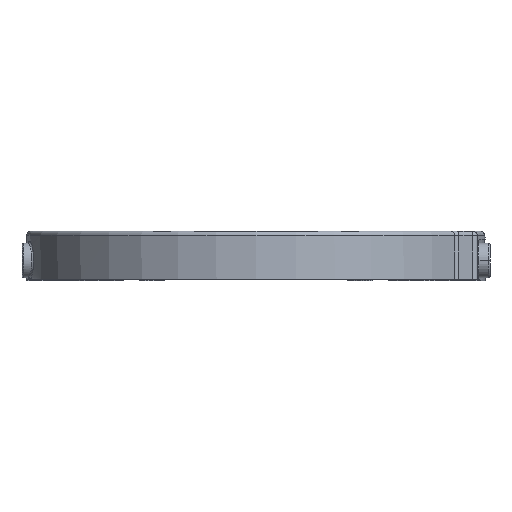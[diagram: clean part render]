
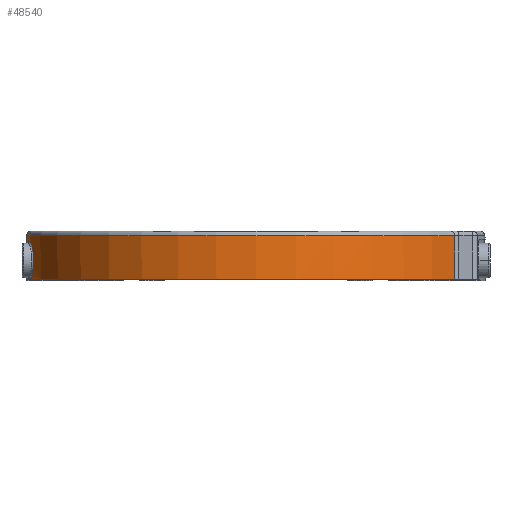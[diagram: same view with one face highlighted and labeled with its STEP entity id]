
A CAD part, front view. The second image highlights one B-rep face of the part: STEP entity #48540.
In plain terms, the highlighted cylindrical face has radius 25 mm (diameter 50 mm), a partial arc.
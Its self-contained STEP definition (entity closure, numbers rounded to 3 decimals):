
#132 = CARTESIAN_POINT ( 'NONE',  ( 24.761, 3.451, 4.08 ) ) ;
#903 = CARTESIAN_POINT ( 'NONE',  ( 24.62, 4.343, 4.156 ) ) ;
#3294 = DIRECTION ( 'NONE',  ( 1., 0., 0. ) ) ;
#3486 = DIRECTION ( 'NONE',  ( 0., 0., 1. ) ) ;
#5226 = CYLINDRICAL_SURFACE ( 'NONE', #35086, 25. ) ;
#5487 = CARTESIAN_POINT ( 'NONE',  ( 24.412, 5.39, 3.698 ) ) ;
#5868 = CARTESIAN_POINT ( 'NONE',  ( 24.911, 2.103, 1.358 ) ) ;
#5896 = EDGE_CURVE ( 'NONE', #22695, #59131, #70482, .T. ) ;
#6257 = CARTESIAN_POINT ( 'NONE',  ( 24.917, 2.031, 1.608 ) ) ;
#6662 = CARTESIAN_POINT ( 'NONE',  ( 24.444, 5.246, 0.334 ) ) ;
#6925 = VERTEX_POINT ( 'NONE', #14994 ) ;
#7051 = CARTESIAN_POINT ( 'NONE',  ( 24.606, 4.418, 0. ) ) ;
#8643 = CARTESIAN_POINT ( 'NONE',  ( 24.606, 4.418, 0. ) ) ;
#11979 = CARTESIAN_POINT ( 'NONE',  ( 24.919, 2.015, 2.515 ) ) ;
#12760 = CARTESIAN_POINT ( 'NONE',  ( 24.239, 6.123, 2.501 ) ) ;
#13174 = CARTESIAN_POINT ( 'NONE',  ( 24.561, 4.674, 0.044 ) ) ;
#14022 = EDGE_CURVE ( 'NONE', #67488, #6925, #67563, .T. ) ;
#14994 = CARTESIAN_POINT ( 'NONE',  ( 24.722, 3.717, 0. ) ) ;
#17024 = EDGE_CURVE ( 'NONE', #52440, #59131, #68474, .T. ) ;
#18104 = CARTESIAN_POINT ( 'NONE',  ( 24.263, 6.027, 1.345 ) ) ;
#18506 = CARTESIAN_POINT ( 'NONE',  ( 24.32, 5.791, 0.883 ) ) ;
#18897 = CARTESIAN_POINT ( 'NONE',  ( 24.706, 3.828, 4.16 ) ) ;
#19294 = CARTESIAN_POINT ( 'NONE',  ( 24.921, 1.981, 1.995 ) ) ;
#19315 = DIRECTION ( 'NONE',  ( 1., 0., 0. ) ) ;
#19715 = CARTESIAN_POINT ( 'NONE',  ( 24.897, 2.269, 1.002 ) ) ;
#21364 = EDGE_LOOP ( 'NONE', ( #28048, #52534, #57206, #33508, #63871, #72649 ) ) ;
#22695 = VERTEX_POINT ( 'NONE', #62955 ) ;
#24254 = CARTESIAN_POINT ( 'NONE',  ( 24.35, 5.663, 3.427 ) ) ;
#25067 = CARTESIAN_POINT ( 'NONE',  ( 24.761, 3.46, 0.044 ) ) ;
#25440 = CARTESIAN_POINT ( 'NONE',  ( 24.743, 3.575, 4.115 ) ) ;
#25853 = CARTESIAN_POINT ( 'NONE',  ( 24.866, 2.586, 0.588 ) ) ;
#28048 = ORIENTED_EDGE ( 'NONE', *, *, #40509, .F. ) ;
#28767 = AXIS2_PLACEMENT_3D ( 'NONE', #58042, #32758, #43861 ) ;
#30095 = EDGE_CURVE ( 'NONE', #80598, #22695, #53520, .T. ) ;
#30396 = CARTESIAN_POINT ( 'NONE',  ( 24.793, 3.217, 0.135 ) ) ;
#30781 = CARTESIAN_POINT ( 'NONE',  ( 24.298, 5.884, 3.106 ) ) ;
#31182 = CARTESIAN_POINT ( 'NONE',  ( 24.893, 2.317, 3.238 ) ) ;
#31588 = CARTESIAN_POINT ( 'NONE',  ( 24.845, 2.778, 0.415 ) ) ;
#32735 = CARTESIAN_POINT ( 'NONE',  ( 0., 0., 0. ) ) ;
#32758 = DIRECTION ( 'NONE',  ( 0., 0., 1. ) ) ;
#33508 = ORIENTED_EDGE ( 'NONE', *, *, #30095, .T. ) ;
#34883 = DIRECTION ( 'NONE',  ( 0., 0., 1. ) ) ;
#35086 = AXIS2_PLACEMENT_3D ( 'NONE', #55411, #74171, #79892 ) ;
#36496 = CARTESIAN_POINT ( 'NONE',  ( 24.81, 3.086, 3.941 ) ) ;
#36898 = CARTESIAN_POINT ( 'NONE',  ( 24.435, 5.287, 3.778 ) ) ;
#37337 = CARTESIAN_POINT ( 'NONE',  ( 25., 0., 0. ) ) ;
#37686 = CARTESIAN_POINT ( 'NONE',  ( 24.378, 5.544, 0.582 ) ) ;
#38096 = CARTESIAN_POINT ( 'NONE',  ( 24.921, 1.981, 2.127 ) ) ;
#39788 = EDGE_CURVE ( 'NONE', #6925, #80598, #55182, .T. ) ;
#40509 = EDGE_CURVE ( 'NONE', #67488, #52440, #60192, .T. ) ;
#41045 = CARTESIAN_POINT ( 'NONE',  ( -21.651, 12.5, 22.5 ) ) ;
#42327 = FACE_OUTER_BOUND ( 'NONE', #21364, .T. ) ;
#43007 = CARTESIAN_POINT ( 'NONE',  ( 24.275, 5.978, 1.222 ) ) ;
#43396 = CARTESIAN_POINT ( 'NONE',  ( 24.357, 5.633, 0.678 ) ) ;
#43792 = CARTESIAN_POINT ( 'NONE',  ( 24.504, 4.957, 3.974 ) ) ;
#43861 = DIRECTION ( 'NONE',  ( 1., 0., 0. ) ) ;
#44206 = CARTESIAN_POINT ( 'NONE',  ( 24.304, 5.86, 0.991 ) ) ;
#44625 = CARTESIAN_POINT ( 'NONE',  ( 24.551, 4.719, 4.069 ) ) ;
#48540 = ADVANCED_FACE ( 'NONE', ( #42327 ), #5226, .T. ) ;
#48756 = CARTESIAN_POINT ( 'NONE',  ( 25., 0., 22.5 ) ) ;
#49137 = CARTESIAN_POINT ( 'NONE',  ( 24.834, 2.882, 0.338 ) ) ;
#49947 = CARTESIAN_POINT ( 'NONE',  ( 24.481, 5.07, 3.915 ) ) ;
#50330 = CARTESIAN_POINT ( 'NONE',  ( 24.228, 6.165, 1.983 ) ) ;
#50747 = CARTESIAN_POINT ( 'NONE',  ( 24.722, 3.717, 0. ) ) ;
#52440 = VERTEX_POINT ( 'NONE', #59307 ) ;
#52534 = ORIENTED_EDGE ( 'NONE', *, *, #14022, .T. ) ;
#53520 = CIRCLE ( 'NONE', #28767, 25. ) ;
#55182 = B_SPLINE_CURVE_WITH_KNOTS ( 'NONE', 3,
 ( #50747, #25067, #30396, #49137, #31588, #25853, #75639, #80143, #19715, #69126, #5868, #6257, #67932, #19294, #38096, #11979, #61795, #31182, #56065, #56461, #36496, #132, #25440, #18897, #74436, #61397, #903, #74819, #44625, #43792, #49947, #36898, #5487, #62186, #24254, #74021, #30781, #68713, #12760, #50330, #55662, #18104, #43007, #44206, #18506, #43396, #37686, #62595, #6662, #75216, #13174, #7051 ),
 .UNSPECIFIED., .F., .F.,
 ( 4, 2, 2, 2, 2, 2, 2, 2, 2, 2, 2, 2, 2, 2, 2, 2, 2, 2, 2, 2, 2, 2, 2, 2, 2, 4 ),
 ( 0.002, 0.003, 0.003, 0.003, 0.004, 0.004, 0.005, 0.005, 0.006, 0.007, 0.007, 0.008, 0.008, 0.009, 0.009, 0.009, 0.01, 0.01, 0.011, 0.011, 0.012, 0.013, 0.013, 0.013, 0.014, 0.014 ),
 .UNSPECIFIED. ) ;
#55411 = CARTESIAN_POINT ( 'NONE',  ( 0., 0., 22.5 ) ) ;
#55662 = CARTESIAN_POINT ( 'NONE',  ( 24.235, 6.137, 1.718 ) ) ;
#56065 = CARTESIAN_POINT ( 'NONE',  ( 24.878, 2.476, 3.451 ) ) ;
#56461 = CARTESIAN_POINT ( 'NONE',  ( 24.836, 2.864, 3.804 ) ) ;
#57206 = ORIENTED_EDGE ( 'NONE', *, *, #39788, .T. ) ;
#58042 = CARTESIAN_POINT ( 'NONE',  ( 0., 0., 0. ) ) ;
#58445 = AXIS2_PLACEMENT_3D ( 'NONE', #32735, #64558, #3294 ) ;
#59131 = VERTEX_POINT ( 'NONE', #69229 ) ;
#59307 = CARTESIAN_POINT ( 'NONE',  ( 25., 0., 4.77 ) ) ;
#60192 = LINE ( 'NONE', #48756, #62488 ) ;
#61397 = CARTESIAN_POINT ( 'NONE',  ( 24.642, 4.215, 4.169 ) ) ;
#61795 = CARTESIAN_POINT ( 'NONE',  ( 24.913, 2.087, 2.773 ) ) ;
#62186 = CARTESIAN_POINT ( 'NONE',  ( 24.37, 5.577, 3.523 ) ) ;
#62488 = VECTOR ( 'NONE', #34883, 1000. ) ;
#62595 = CARTESIAN_POINT ( 'NONE',  ( 24.421, 5.35, 0.41 ) ) ;
#62955 = CARTESIAN_POINT ( 'NONE',  ( -21.651, 12.5, 0. ) ) ;
#63404 = CARTESIAN_POINT ( 'NONE',  ( 0., 0., 4.77 ) ) ;
#63871 = ORIENTED_EDGE ( 'NONE', *, *, #5896, .T. ) ;
#64558 = DIRECTION ( 'NONE',  ( 0., 0., 1. ) ) ;
#67488 = VERTEX_POINT ( 'NONE', #37337 ) ;
#67563 = CIRCLE ( 'NONE', #58445, 25. ) ;
#67932 = CARTESIAN_POINT ( 'NONE',  ( 24.919, 2.007, 1.735 ) ) ;
#68474 = CIRCLE ( 'NONE', #78882, 25. ) ;
#68713 = CARTESIAN_POINT ( 'NONE',  ( 24.257, 6.052, 2.758 ) ) ;
#69126 = CARTESIAN_POINT ( 'NONE',  ( 24.907, 2.152, 1.234 ) ) ;
#69229 = CARTESIAN_POINT ( 'NONE',  ( -21.651, 12.5, 4.77 ) ) ;
#69935 = DIRECTION ( 'NONE',  ( 0., 0., 1. ) ) ;
#70482 = LINE ( 'NONE', #41045, #73360 ) ;
#72649 = ORIENTED_EDGE ( 'NONE', *, *, #17024, .F. ) ;
#73360 = VECTOR ( 'NONE', #3486, 1000. ) ;
#74021 = CARTESIAN_POINT ( 'NONE',  ( 24.314, 5.816, 3.219 ) ) ;
#74171 = DIRECTION ( 'NONE',  ( 0., 0., 1. ) ) ;
#74436 = CARTESIAN_POINT ( 'NONE',  ( 24.685, 3.958, 4.171 ) ) ;
#74819 = CARTESIAN_POINT ( 'NONE',  ( 24.575, 4.594, 4.106 ) ) ;
#75216 = CARTESIAN_POINT ( 'NONE',  ( 24.513, 4.915, 0.134 ) ) ;
#75639 = CARTESIAN_POINT ( 'NONE',  ( 24.875, 2.496, 0.685 ) ) ;
#78882 = AXIS2_PLACEMENT_3D ( 'NONE', #63404, #69935, #19315 ) ;
#79892 = DIRECTION ( 'NONE',  ( 1., 0., 0. ) ) ;
#80143 = CARTESIAN_POINT ( 'NONE',  ( 24.891, 2.338, 0.892 ) ) ;
#80598 = VERTEX_POINT ( 'NONE', #8643 ) ;
